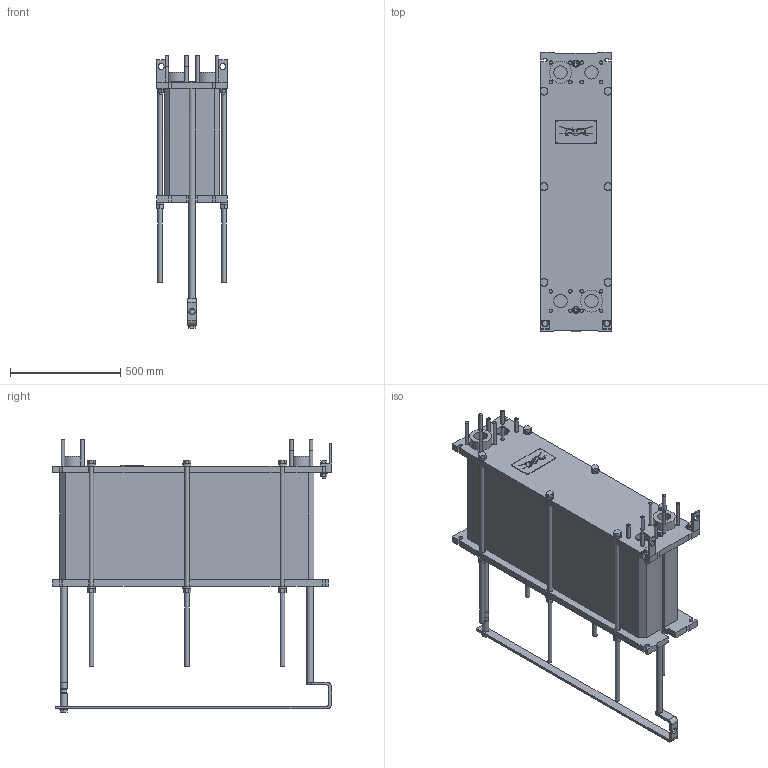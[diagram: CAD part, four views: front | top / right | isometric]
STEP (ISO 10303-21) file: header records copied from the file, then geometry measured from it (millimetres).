
FILE_DESCRIPTION(/* description */ (''),/* implementation_level */ '2;1');
FILE_NAME(/* name */ 'C:\temp\TL6_FG_LC950_08_Rev0.stp',/* time_stamp */ '2016-02-02T13:36:47+08:00',/* author */ ('SELUJJNCX'),/* organization */ (''),/* preprocessor_version */ 'ST-DEVELOPER v15.6',/* originating_system */ 'Autodesk Inventor 2015',/* authorisation */ '270013742 mm^3');
FILE_SCHEMA (('AUTOMOTIVE_DESIGN { 1 0 10303 214 3 1 1 }'));
Length unit declared in the file: millimetre
Products named in the file (1): 3dmodel_TL6.4
Bounding box: 326 x 1264 x 1234.5 mm (x, y, z)
Volume: 160436746.7 mm3; surface area: 3829283.5 mm2
Topology: 1 solids, 3 shells, 857 faces, 2274 edges, 1495 vertices
Faces by surface type: plane 589, cylinder 236, cone 27, torus 5
Full cylindrical faces by diameter (mm): 4.049 x4, 16 x20, 18 x2, 20 x12, 22 x2, 28 x4, 30 x10, 32 x2, 36 x12, 37 x1, 61 x10, 100 x2
Entity records: 25804 total; most frequent: CARTESIAN_POINT 4474, DIRECTION 4355, ORIENTED_EDGE 4258, EDGE_CURVE 2129, LINE 1595, VECTOR 1595, VERTEX_POINT 1463, AXIS2_PLACEMENT_3D 1380
